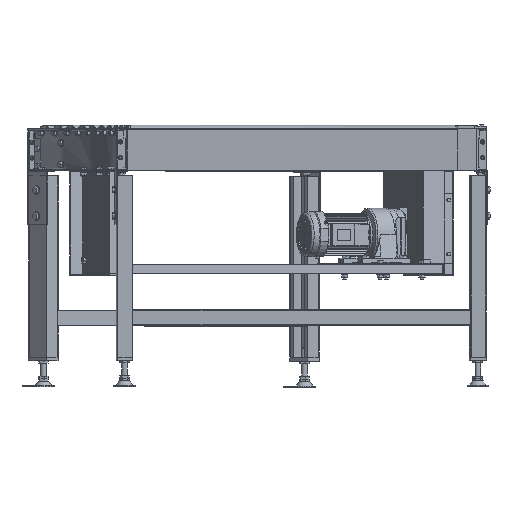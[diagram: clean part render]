
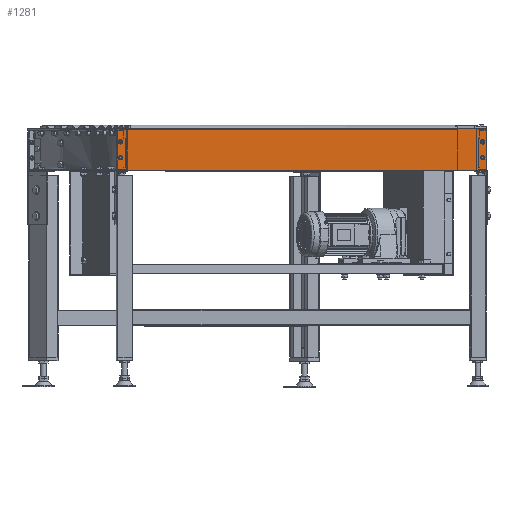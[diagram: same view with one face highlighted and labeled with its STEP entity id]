
A CAD part, top view. The second image highlights one B-rep face of the part: STEP entity #1281.
In plain terms, the highlighted planar face has unit normal (0, 0, 1).
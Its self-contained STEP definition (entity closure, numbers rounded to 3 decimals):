
#1281=ADVANCED_FACE('',(#8290,#8291,#8292,#8293,#8294),#8289,.T.);
#8289=PLANE('',#33882);
#8290=FACE_OUTER_BOUND('',#33883,.T.);
#8291=FACE_BOUND('',#33884,.T.);
#8292=FACE_BOUND('',#33885,.T.);
#8293=FACE_BOUND('',#33886,.T.);
#8294=FACE_BOUND('',#33887,.T.);
#33879=CARTESIAN_POINT('',(1940.,0.,1.6));
#33880=DIRECTION('',(0.,0.,1.));
#33881=DIRECTION('',(-1.,0.,0.));
#33882=AXIS2_PLACEMENT_3D('',#33879,#33880,#33881);
#33883=EDGE_LOOP('',(#48102,#48103,#48104,#48105));
#33884=EDGE_LOOP('',(#48106,#48107));
#33885=EDGE_LOOP('',(#48108,#48109));
#33886=EDGE_LOOP('',(#48110,#48111));
#33887=EDGE_LOOP('',(#48112,#48113));
#48102=ORIENTED_EDGE('',*,*,#60721,.F.);
#48103=ORIENTED_EDGE('',*,*,#60722,.F.);
#48104=ORIENTED_EDGE('',*,*,#60723,.F.);
#48105=ORIENTED_EDGE('',*,*,#60724,.F.);
#48106=ORIENTED_EDGE('',*,*,#60712,.F.);
#48107=ORIENTED_EDGE('',*,*,#60713,.F.);
#48108=ORIENTED_EDGE('',*,*,#60704,.F.);
#48109=ORIENTED_EDGE('',*,*,#60705,.F.);
#48110=ORIENTED_EDGE('',*,*,#60716,.F.);
#48111=ORIENTED_EDGE('',*,*,#60717,.F.);
#48112=ORIENTED_EDGE('',*,*,#60708,.F.);
#48113=ORIENTED_EDGE('',*,*,#60709,.F.);
#60704=EDGE_CURVE('',#74683,#74690,#74691,.T.);
#60705=EDGE_CURVE('',#74690,#74683,#74697,.T.);
#60708=EDGE_CURVE('',#74710,#74717,#74718,.T.);
#60709=EDGE_CURVE('',#74717,#74710,#74724,.T.);
#60712=EDGE_CURVE('',#74737,#74744,#74745,.T.);
#60713=EDGE_CURVE('',#74744,#74737,#74751,.T.);
#60716=EDGE_CURVE('',#74764,#74771,#74772,.T.);
#60717=EDGE_CURVE('',#74771,#74764,#74778,.T.);
#60721=EDGE_CURVE('',#74804,#74805,#74806,.T.);
#60722=EDGE_CURVE('',#74812,#74804,#74813,.T.);
#60723=EDGE_CURVE('',#74819,#74812,#74820,.T.);
#60724=EDGE_CURVE('',#74805,#74819,#74826,.T.);
#74683=VERTEX_POINT('',#122638);
#74690=VERTEX_POINT('',#122641);
#74691=CIRCLE('',#122645,3.5);
#74697=CIRCLE('',#122649,3.5);
#74710=VERTEX_POINT('',#122655);
#74717=VERTEX_POINT('',#122658);
#74718=CIRCLE('',#122662,3.5);
#74724=CIRCLE('',#122666,3.5);
#74737=VERTEX_POINT('',#122672);
#74744=VERTEX_POINT('',#122675);
#74745=CIRCLE('',#122679,3.5);
#74751=CIRCLE('',#122683,3.5);
#74764=VERTEX_POINT('',#122689);
#74771=VERTEX_POINT('',#122692);
#74772=CIRCLE('',#122696,3.5);
#74778=CIRCLE('',#122700,3.5);
#74804=VERTEX_POINT('',#122712);
#74805=VERTEX_POINT('',#122713);
#74806=LINE('',#122714,#122715);
#74812=VERTEX_POINT('',#122717);
#74813=LINE('',#122718,#122719);
#74819=VERTEX_POINT('',#122721);
#74820=LINE('',#122722,#122723);
#74826=LINE('',#122725,#122726);
#122638=CARTESIAN_POINT('',(1916.2,-48.5,1.6));
#122641=CARTESIAN_POINT('',(1923.2,-48.5,1.6));
#122642=CARTESIAN_POINT('',(1919.7,-48.5,1.6));
#122643=DIRECTION('',(0.,0.,1.));
#122644=DIRECTION('',(1.,0.,0.));
#122645=AXIS2_PLACEMENT_3D('',#122642,#122643,#122644);
#122646=CARTESIAN_POINT('',(1919.7,-48.5,1.6));
#122647=DIRECTION('',(0.,0.,1.));
#122648=DIRECTION('',(1.,0.,0.));
#122649=AXIS2_PLACEMENT_3D('',#122646,#122647,#122648);
#122655=CARTESIAN_POINT('',(876.8,-48.5,1.6));
#122658=CARTESIAN_POINT('',(883.8,-48.5,1.6));
#122659=CARTESIAN_POINT('',(880.3,-48.5,1.6));
#122660=DIRECTION('',(0.,0.,1.));
#122661=DIRECTION('',(1.,0.,0.));
#122662=AXIS2_PLACEMENT_3D('',#122659,#122660,#122661);
#122663=CARTESIAN_POINT('',(880.3,-48.5,1.6));
#122664=DIRECTION('',(0.,0.,1.));
#122665=DIRECTION('',(1.,0.,0.));
#122666=AXIS2_PLACEMENT_3D('',#122663,#122664,#122665);
#122672=CARTESIAN_POINT('',(1916.2,-93.5,1.6));
#122675=CARTESIAN_POINT('',(1923.2,-93.5,1.6));
#122676=CARTESIAN_POINT('',(1919.7,-93.5,1.6));
#122677=DIRECTION('',(0.,0.,1.));
#122678=DIRECTION('',(1.,0.,0.));
#122679=AXIS2_PLACEMENT_3D('',#122676,#122677,#122678);
#122680=CARTESIAN_POINT('',(1919.7,-93.5,1.6));
#122681=DIRECTION('',(0.,0.,1.));
#122682=DIRECTION('',(1.,0.,0.));
#122683=AXIS2_PLACEMENT_3D('',#122680,#122681,#122682);
#122689=CARTESIAN_POINT('',(876.8,-93.5,1.6));
#122692=CARTESIAN_POINT('',(883.8,-93.5,1.6));
#122693=CARTESIAN_POINT('',(880.3,-93.5,1.6));
#122694=DIRECTION('',(0.,0.,1.));
#122695=DIRECTION('',(1.,0.,0.));
#122696=AXIS2_PLACEMENT_3D('',#122693,#122694,#122695);
#122697=CARTESIAN_POINT('',(880.3,-93.5,1.6));
#122698=DIRECTION('',(0.,0.,1.));
#122699=DIRECTION('',(1.,0.,0.));
#122700=AXIS2_PLACEMENT_3D('',#122697,#122698,#122699);
#122712=CARTESIAN_POINT('',(1930.,-130.,1.6));
#122713=CARTESIAN_POINT('',(870.,-130.,1.6));
#122714=CARTESIAN_POINT('',(1930.,-130.,1.6));
#122715=VECTOR('',#122716,1060.);
#122716=DIRECTION('',(-1.,0.,0.));
#122717=CARTESIAN_POINT('',(1930.,-10.,1.6));
#122718=CARTESIAN_POINT('',(1930.,-10.,1.6));
#122719=VECTOR('',#122720,120.);
#122720=DIRECTION('',(0.,-1.,0.));
#122721=CARTESIAN_POINT('',(870.,-10.,1.6));
#122722=CARTESIAN_POINT('',(870.,-10.,1.6));
#122723=VECTOR('',#122724,1060.);
#122724=DIRECTION('',(1.,0.,0.));
#122725=CARTESIAN_POINT('',(870.,-130.,1.6));
#122726=VECTOR('',#122727,120.);
#122727=DIRECTION('',(0.,1.,0.));
